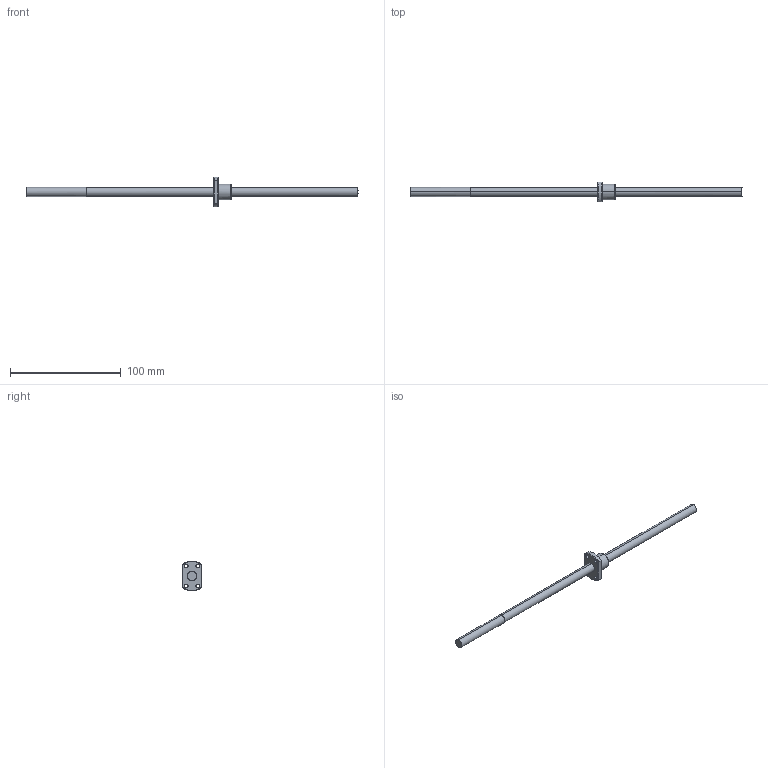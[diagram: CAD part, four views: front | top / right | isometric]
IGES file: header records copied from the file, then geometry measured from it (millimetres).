
Global section: file name: No Iges File Name specified; native system: AutoDesk Inventor R11.0; preprocessor: AutoDesk Inventor Iges Exporter R11.0; author: No Author specified; organization: No Organization specified; date: 20160202.105521; units: millimetre
Bounding box: 300 x 18 x 26.96 mm (x, y, z)
Surface area: 9760 mm2 (no closed solid volume)
Topology: 0 solids, 0 shells, 37 faces, 232 edges, 232 vertices
Faces by surface type: bspline 37
